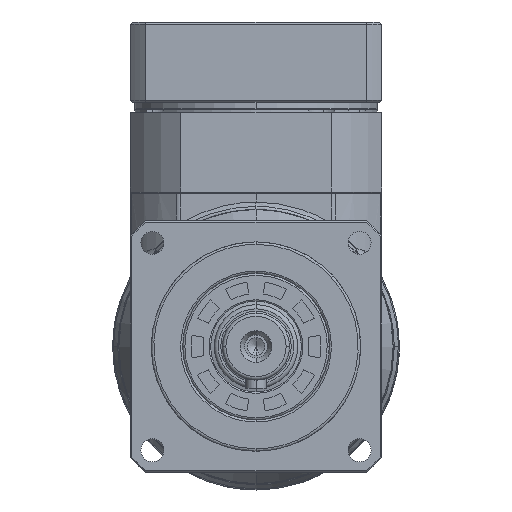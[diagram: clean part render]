
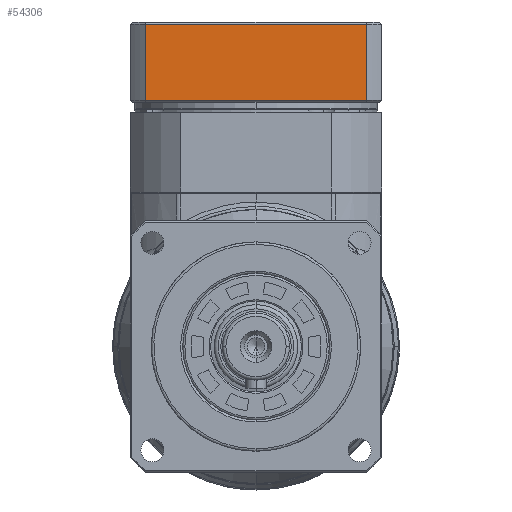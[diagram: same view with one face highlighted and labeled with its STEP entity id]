
A CAD part, left-side view. The second image highlights one B-rep face of the part: STEP entity #54306.
In plain terms, the highlighted planar face has unit normal (-1, 0, 0).
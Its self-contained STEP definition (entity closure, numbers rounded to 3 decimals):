
#899 = EDGE_CURVE ( 'NONE', #45506, #50749, #29453, .T. ) ;
#4663 = VECTOR ( 'NONE', #34947, 1000. ) ;
#7741 = CARTESIAN_POINT ( 'NONE',  ( -66.465, -53.377, 129.831 ) ) ;
#9204 = ORIENTED_EDGE ( 'NONE', *, *, #14536, .F. ) ;
#12427 = CARTESIAN_POINT ( 'NONE',  ( -66.465, -0.462, 129.831 ) ) ;
#14113 = FACE_OUTER_BOUND ( 'NONE', #20746, .T. ) ;
#14536 = EDGE_CURVE ( 'NONE', #46318, #50749, #42975, .T. ) ;
#18860 = CARTESIAN_POINT ( 'NONE',  ( -66.465, -53.377, 111.631 ) ) ;
#19196 = AXIS2_PLACEMENT_3D ( 'NONE', #27396, #44973, #23635 ) ;
#20746 = EDGE_LOOP ( 'NONE', ( #27493, #9204, #22488, #56915 ) ) ;
#20778 = VECTOR ( 'NONE', #23858, 1000. ) ;
#21349 = VECTOR ( 'NONE', #22299, 1000. ) ;
#21620 = DIRECTION ( 'NONE',  ( 0., 0., 1. ) ) ;
#22299 = DIRECTION ( 'NONE',  ( 0., 0., 1. ) ) ;
#22488 = ORIENTED_EDGE ( 'NONE', *, *, #29247, .T. ) ;
#23635 = DIRECTION ( 'NONE',  ( 0., 0., 1. ) ) ;
#23858 = DIRECTION ( 'NONE',  ( 0., -1., 0. ) ) ;
#27396 = CARTESIAN_POINT ( 'NONE',  ( -66.465, -0.462, 54.331 ) ) ;
#27407 = CARTESIAN_POINT ( 'NONE',  ( -66.465, -0.462, 129.831 ) ) ;
#27493 = ORIENTED_EDGE ( 'NONE', *, *, #899, .T. ) ;
#29247 = EDGE_CURVE ( 'NONE', #46318, #31751, #45782, .T. ) ;
#29453 = LINE ( 'NONE', #12427, #4663 ) ;
#30972 = CARTESIAN_POINT ( 'NONE',  ( -66.465, -53.377, 54.331 ) ) ;
#31751 = VERTEX_POINT ( 'NONE', #18860 ) ;
#34947 = DIRECTION ( 'NONE',  ( 0., 1., 0. ) ) ;
#35864 = LINE ( 'NONE', #30972, #21349 ) ;
#40380 = PLANE ( 'NONE',  #19196 ) ;
#42059 = CARTESIAN_POINT ( 'NONE',  ( -66.465, -0.462, 111.631 ) ) ;
#42685 = CARTESIAN_POINT ( 'NONE',  ( -66.465, -0.462, 105.331 ) ) ;
#42975 = LINE ( 'NONE', #42685, #53895 ) ;
#44973 = DIRECTION ( 'NONE',  ( -1., 0., 0. ) ) ;
#45506 = VERTEX_POINT ( 'NONE', #7741 ) ;
#45782 = LINE ( 'NONE', #50399, #20778 ) ;
#46318 = VERTEX_POINT ( 'NONE', #42059 ) ;
#50399 = CARTESIAN_POINT ( 'NONE',  ( -66.465, -26.92, 111.631 ) ) ;
#50749 = VERTEX_POINT ( 'NONE', #27407 ) ;
#53670 = EDGE_CURVE ( 'NONE', #31751, #45506, #35864, .T. ) ;
#53895 = VECTOR ( 'NONE', #21620, 1000. ) ;
#54306 = ADVANCED_FACE ( 'NONE', ( #14113 ), #40380, .T. ) ;
#56915 = ORIENTED_EDGE ( 'NONE', *, *, #53670, .T. ) ;
